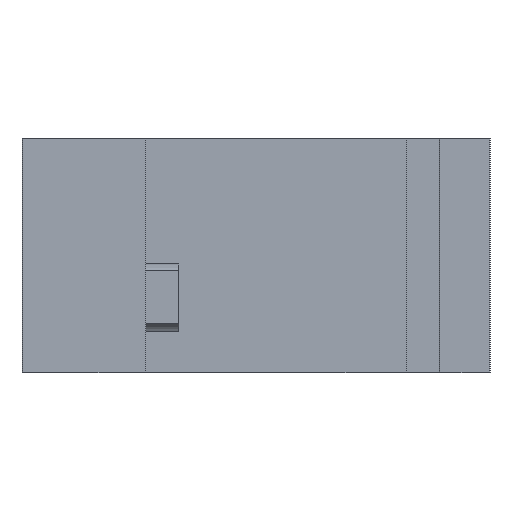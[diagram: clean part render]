
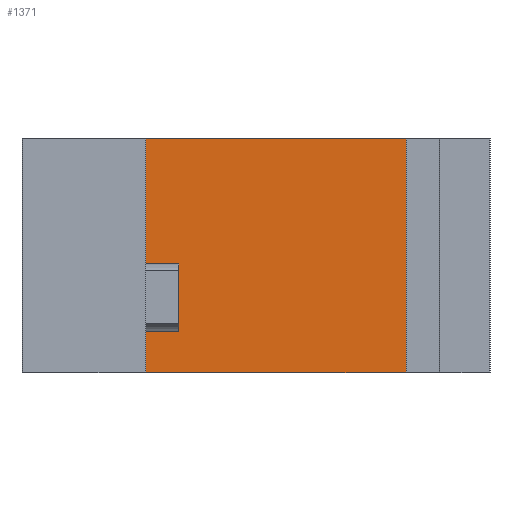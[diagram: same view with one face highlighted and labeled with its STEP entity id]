
A CAD part, front view. The second image highlights one B-rep face of the part: STEP entity #1371.
In plain terms, the highlighted planar face has unit normal (0, -1, 0).
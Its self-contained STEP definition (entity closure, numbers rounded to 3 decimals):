
#741 = EDGE_CURVE( '', #1493, #1177, #1912, .T. );
#927 = VERTEX_POINT( '', #2119 );
#989 = VERTEX_POINT( '', #2196 );
#999 = VERTEX_POINT( '', #2206 );
#1113 = EDGE_CURVE( '', #1549, #1577, #2326, .T. );
#1137 = EDGE_CURVE( '', #927, #989, #2354, .T. );
#1177 = VERTEX_POINT( '', #2399 );
#1229 = EDGE_CURVE( '', #1309, #1177, #2458, .T. );
#1271 = EDGE_CURVE( '', #1309, #999, #2504, .T. );
#1275 = EDGE_CURVE( '', #1549, #1493, #2508, .T. );
#1309 = VERTEX_POINT( '', #2544 );
#1371 = ADVANCED_FACE( '', ( #2612 ), #2613, .T. );
#1493 = VERTEX_POINT( '', #2746 );
#1549 = VERTEX_POINT( '', #2811 );
#1577 = VERTEX_POINT( '', #2844 );
#1681 = EDGE_CURVE( '', #989, #999, #2962, .T. );
#1713 = EDGE_CURVE( '', #1577, #927, #2998, .T. );
#1912 = LINE( '', #3250, #3251 );
#2119 = CARTESIAN_POINT( '', ( -21.3, 12.65, 0. ) );
#2196 = CARTESIAN_POINT( '', ( 16.5, 12.65, 0. ) );
#2206 = CARTESIAN_POINT( '', ( 16.5, 12.65, -34. ) );
#2326 = LINE( '', #3805, #3806 );
#2354 = LINE( '', #3841, #3842 );
#2399 = CARTESIAN_POINT( '', ( -21.3, 12.65, -25.605 ) );
#2458 = LINE( '', #3987, #3988 );
#2504 = LINE( '', #4052, #4053 );
#2508 = LINE( '', #4060, #4061 );
#2544 = CARTESIAN_POINT( '', ( -21.3, 12.65, -34. ) );
#2612 = FACE_OUTER_BOUND( '', #4209, .T. );
#2613 = PLANE( '', #4210 );
#2746 = CARTESIAN_POINT( '', ( -16.5, 12.65, -25.605 ) );
#2811 = CARTESIAN_POINT( '', ( -16.5, 12.65, -20.395 ) );
#2844 = CARTESIAN_POINT( '', ( -21.3, 12.65, -20.395 ) );
#2962 = LINE( '', #4690, #4691 );
#2998 = LINE( '', #4736, #4737 );
#3250 = CARTESIAN_POINT( '', ( -2.8, 12.65, -25.605 ) );
#3251 = VECTOR( '', #4971, 1. );
#3805 = CARTESIAN_POINT( '', ( -2.8, 12.65, -20.395 ) );
#3806 = VECTOR( '', #5378, 1. );
#3841 = CARTESIAN_POINT( '', ( -16.5, 12.65, 0. ) );
#3842 = VECTOR( '', #5419, 1. );
#3987 = CARTESIAN_POINT( '', ( -21.3, 12.65, -34. ) );
#3988 = VECTOR( '', #5549, 1. );
#4052 = CARTESIAN_POINT( '', ( -16.5, 12.65, -34. ) );
#4053 = VECTOR( '', #5593, 1. );
#4060 = CARTESIAN_POINT( '', ( -16.5, 12.65, 0. ) );
#4061 = VECTOR( '', #5595, 1. );
#4209 = EDGE_LOOP( '', ( #5702, #5703, #5704, #5705, #5706, #5707, #5708, #5709 ) );
#4210 = AXIS2_PLACEMENT_3D( '', #5710, #5711, #5712 );
#4690 = CARTESIAN_POINT( '', ( 16.5, 12.65, 0. ) );
#4691 = VECTOR( '', #6130, 1. );
#4736 = CARTESIAN_POINT( '', ( -21.3, 12.65, -20.395 ) );
#4737 = VECTOR( '', #6177, 1. );
#4971 = DIRECTION( '', ( -1., 0., 0. ) );
#5378 = DIRECTION( '', ( -1., 0., 0. ) );
#5419 = DIRECTION( '', ( 1., 0., 0. ) );
#5549 = DIRECTION( '', ( 0., 0., 1. ) );
#5593 = DIRECTION( '', ( 1., 0., 0. ) );
#5595 = DIRECTION( '', ( 0., 0., -1. ) );
#5702 = ORIENTED_EDGE( '', *, *, #1271, .T. );
#5703 = ORIENTED_EDGE( '', *, *, #1681, .F. );
#5704 = ORIENTED_EDGE( '', *, *, #1137, .F. );
#5705 = ORIENTED_EDGE( '', *, *, #1713, .F. );
#5706 = ORIENTED_EDGE( '', *, *, #1113, .F. );
#5707 = ORIENTED_EDGE( '', *, *, #1275, .T. );
#5708 = ORIENTED_EDGE( '', *, *, #741, .T. );
#5709 = ORIENTED_EDGE( '', *, *, #1229, .F. );
#5710 = CARTESIAN_POINT( '', ( -16.5, 12.65, 0. ) );
#5711 = DIRECTION( '', ( 0., -1., 0. ) );
#5712 = DIRECTION( '', ( -1., 0., 0. ) );
#6130 = DIRECTION( '', ( 0., 0., -1. ) );
#6177 = DIRECTION( '', ( 0., 0., 1. ) );
